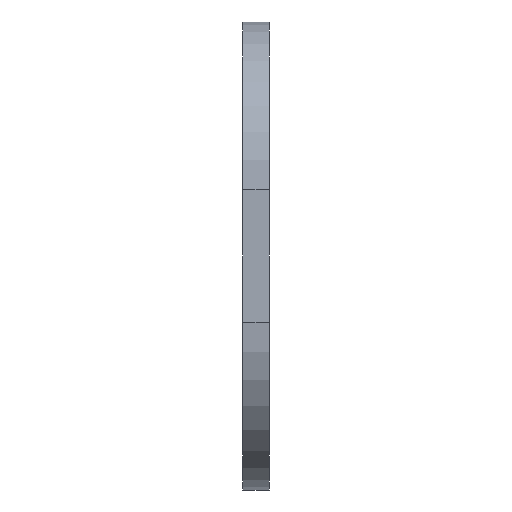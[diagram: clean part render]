
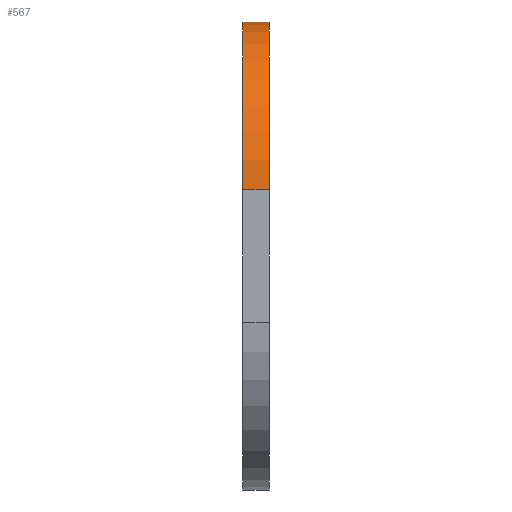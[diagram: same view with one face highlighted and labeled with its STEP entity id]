
A CAD part, front view. The second image highlights one B-rep face of the part: STEP entity #567.
In plain terms, the highlighted cylindrical face has radius 6.3 mm (diameter 12.6 mm), a partial arc.
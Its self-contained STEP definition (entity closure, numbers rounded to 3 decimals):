
#22 = VERTEX_POINT('',#23);
#23 = CARTESIAN_POINT('',(44.,-0.5,8.8));
#32 = PLANE('',#33);
#33 = AXIS2_PLACEMENT_3D('',#34,#35,#36);
#34 = CARTESIAN_POINT('',(43.,-6.8,8.8));
#35 = DIRECTION('',(0.,0.,-1.));
#36 = DIRECTION('',(1.,0.,0.));
#44 = PLANE('',#45);
#45 = AXIS2_PLACEMENT_3D('',#46,#47,#48);
#46 = CARTESIAN_POINT('',(44.,-6.8,8.8));
#47 = DIRECTION('',(1.,0.,0.));
#48 = DIRECTION('',(0.,0.,-1.));
#56 = EDGE_CURVE('',#57,#22,#59,.T.);
#57 = VERTEX_POINT('',#58);
#58 = CARTESIAN_POINT('',(43.,-0.5,8.8));
#59 = SURFACE_CURVE('',#60,(#64,#71),.PCURVE_S1.);
#60 = LINE('',#61,#62);
#61 = CARTESIAN_POINT('',(43.,-0.5,8.8));
#62 = VECTOR('',#63,1.);
#63 = DIRECTION('',(1.,0.,0.));
#64 = PCURVE('',#32,#65);
#65 = DEFINITIONAL_REPRESENTATION('',(#66),#70);
#66 = LINE('',#67,#68);
#67 = CARTESIAN_POINT('',(0.,-6.3));
#68 = VECTOR('',#69,1.);
#69 = DIRECTION('',(1.,0.));
#70 = ( GEOMETRIC_REPRESENTATION_CONTEXT(2) 
PARAMETRIC_REPRESENTATION_CONTEXT() REPRESENTATION_CONTEXT('2D SPACE',''
  ) );
#71 = PCURVE('',#72,#77);
#72 = CYLINDRICAL_SURFACE('',#73,6.3);
#73 = AXIS2_PLACEMENT_3D('',#74,#75,#76);
#74 = CARTESIAN_POINT('',(43.,-0.5,2.5));
#75 = DIRECTION('',(1.,0.,0.));
#76 = DIRECTION('',(0.,0.,1.));
#77 = DEFINITIONAL_REPRESENTATION('',(#78),#82);
#78 = LINE('',#79,#80);
#79 = CARTESIAN_POINT('',(0.,0.));
#80 = VECTOR('',#81,1.);
#81 = DIRECTION('',(0.,1.));
#82 = ( GEOMETRIC_REPRESENTATION_CONTEXT(2) 
PARAMETRIC_REPRESENTATION_CONTEXT() REPRESENTATION_CONTEXT('2D SPACE',''
  ) );
#100 = PLANE('',#101);
#101 = AXIS2_PLACEMENT_3D('',#102,#103,#104);
#102 = CARTESIAN_POINT('',(43.,-6.8,8.8));
#103 = DIRECTION('',(1.,0.,0.));
#104 = DIRECTION('',(0.,0.,-1.));
#142 = EDGE_CURVE('',#22,#143,#145,.T.);
#143 = VERTEX_POINT('',#144);
#144 = CARTESIAN_POINT('',(44.,-6.8,2.5));
#145 = SURFACE_CURVE('',#146,(#151,#158),.PCURVE_S1.);
#146 = CIRCLE('',#147,6.3);
#147 = AXIS2_PLACEMENT_3D('',#148,#149,#150);
#148 = CARTESIAN_POINT('',(44.,-0.5,2.5));
#149 = DIRECTION('',(1.,0.,0.));
#150 = DIRECTION('',(0.,-1.,0.));
#151 = PCURVE('',#44,#152);
#152 = DEFINITIONAL_REPRESENTATION('',(#153),#157);
#153 = CIRCLE('',#154,6.3);
#154 = AXIS2_PLACEMENT_2D('',#155,#156);
#155 = CARTESIAN_POINT('',(6.3,6.3));
#156 = DIRECTION('',(0.,-1.));
#157 = ( GEOMETRIC_REPRESENTATION_CONTEXT(2) 
PARAMETRIC_REPRESENTATION_CONTEXT() REPRESENTATION_CONTEXT('2D SPACE',''
  ) );
#158 = PCURVE('',#72,#159);
#159 = DEFINITIONAL_REPRESENTATION('',(#160),#164);
#160 = LINE('',#161,#162);
#161 = CARTESIAN_POINT('',(-4.712,1.));
#162 = VECTOR('',#163,1.);
#163 = DIRECTION('',(1.,0.));
#164 = ( GEOMETRIC_REPRESENTATION_CONTEXT(2) 
PARAMETRIC_REPRESENTATION_CONTEXT() REPRESENTATION_CONTEXT('2D SPACE',''
  ) );
#182 = PLANE('',#183);
#183 = AXIS2_PLACEMENT_3D('',#184,#185,#186);
#184 = CARTESIAN_POINT('',(43.,-6.8,8.8));
#185 = DIRECTION('',(0.,1.,0.));
#186 = DIRECTION('',(1.,-0.,0.));
#567 = ADVANCED_FACE('',(#568),#72,.T.);
#568 = FACE_BOUND('',#569,.T.);
#569 = EDGE_LOOP('',(#570,#594,#615,#616));
#570 = ORIENTED_EDGE('',*,*,#571,.T.);
#571 = EDGE_CURVE('',#57,#572,#574,.T.);
#572 = VERTEX_POINT('',#573);
#573 = CARTESIAN_POINT('',(43.,-6.8,2.5));
#574 = SURFACE_CURVE('',#575,(#580,#587),.PCURVE_S1.);
#575 = CIRCLE('',#576,6.3);
#576 = AXIS2_PLACEMENT_3D('',#577,#578,#579);
#577 = CARTESIAN_POINT('',(43.,-0.5,2.5));
#578 = DIRECTION('',(1.,0.,0.));
#579 = DIRECTION('',(0.,-1.,0.));
#580 = PCURVE('',#72,#581);
#581 = DEFINITIONAL_REPRESENTATION('',(#582),#586);
#582 = LINE('',#583,#584);
#583 = CARTESIAN_POINT('',(-4.712,0.));
#584 = VECTOR('',#585,1.);
#585 = DIRECTION('',(1.,0.));
#586 = ( GEOMETRIC_REPRESENTATION_CONTEXT(2) 
PARAMETRIC_REPRESENTATION_CONTEXT() REPRESENTATION_CONTEXT('2D SPACE',''
  ) );
#587 = PCURVE('',#100,#588);
#588 = DEFINITIONAL_REPRESENTATION('',(#589),#593);
#589 = CIRCLE('',#590,6.3);
#590 = AXIS2_PLACEMENT_2D('',#591,#592);
#591 = CARTESIAN_POINT('',(6.3,6.3));
#592 = DIRECTION('',(0.,-1.));
#593 = ( GEOMETRIC_REPRESENTATION_CONTEXT(2) 
PARAMETRIC_REPRESENTATION_CONTEXT() REPRESENTATION_CONTEXT('2D SPACE',''
  ) );
#594 = ORIENTED_EDGE('',*,*,#595,.T.);
#595 = EDGE_CURVE('',#572,#143,#596,.T.);
#596 = SURFACE_CURVE('',#597,(#601,#608),.PCURVE_S1.);
#597 = LINE('',#598,#599);
#598 = CARTESIAN_POINT('',(43.,-6.8,2.5));
#599 = VECTOR('',#600,1.);
#600 = DIRECTION('',(1.,0.,0.));
#601 = PCURVE('',#72,#602);
#602 = DEFINITIONAL_REPRESENTATION('',(#603),#607);
#603 = LINE('',#604,#605);
#604 = CARTESIAN_POINT('',(1.571,0.));
#605 = VECTOR('',#606,1.);
#606 = DIRECTION('',(0.,1.));
#607 = ( GEOMETRIC_REPRESENTATION_CONTEXT(2) 
PARAMETRIC_REPRESENTATION_CONTEXT() REPRESENTATION_CONTEXT('2D SPACE',''
  ) );
#608 = PCURVE('',#182,#609);
#609 = DEFINITIONAL_REPRESENTATION('',(#610),#614);
#610 = LINE('',#611,#612);
#611 = CARTESIAN_POINT('',(0.,6.3));
#612 = VECTOR('',#613,1.);
#613 = DIRECTION('',(1.,0.));
#614 = ( GEOMETRIC_REPRESENTATION_CONTEXT(2) 
PARAMETRIC_REPRESENTATION_CONTEXT() REPRESENTATION_CONTEXT('2D SPACE',''
  ) );
#615 = ORIENTED_EDGE('',*,*,#142,.F.);
#616 = ORIENTED_EDGE('',*,*,#56,.F.);
